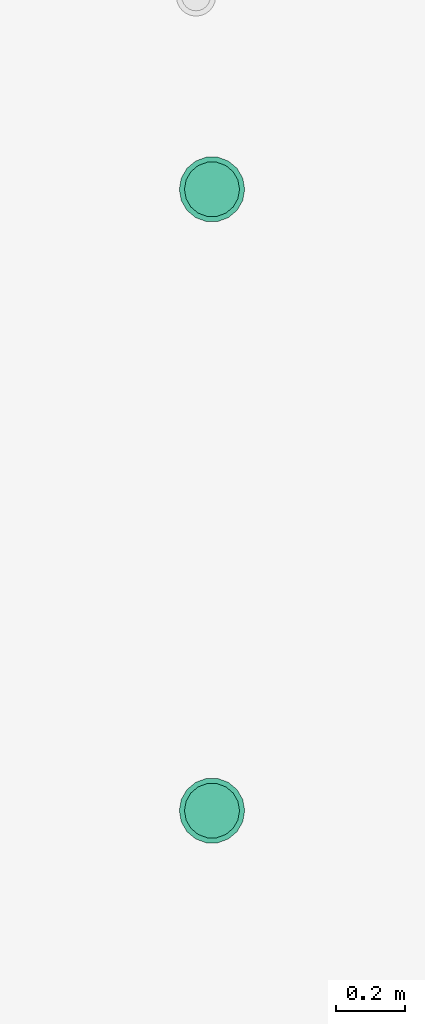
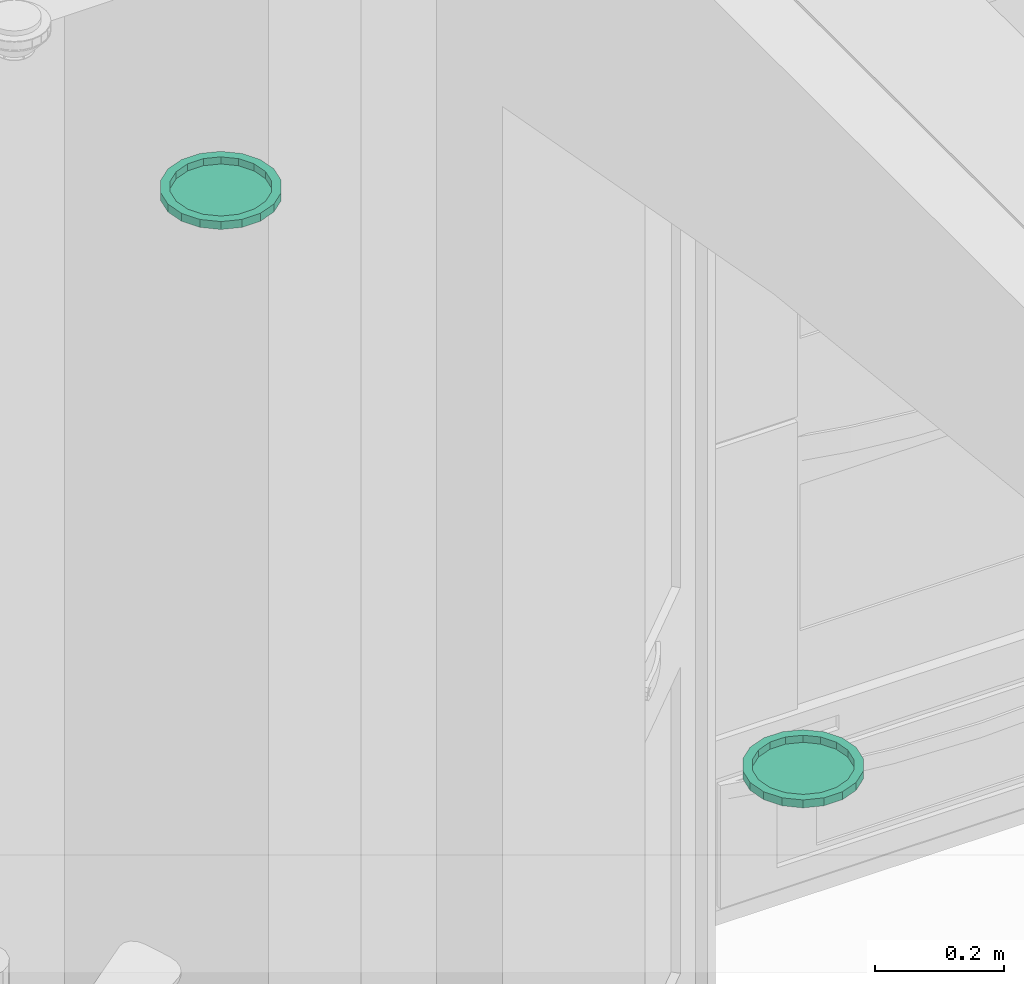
# One storey, part 45 of 77: 2 flow terminals.
"""IFC2X3 building model written with IfcOpenShell, lengths in inches."""

from ifc_helpers import new_model, entity, si_unit, converted_unit, derived_unit, money_unit, direction, frame, origin_with_axes, place, context, subcontext, project, spatial, open_shell, faceted_brep, surface_model, source, transform, mapped, type_object, element, save


model = new_model("IFC2X3")

# Units and contexts
model_context = context("Model", 3, precision=0.000393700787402, world=origin_with_axes(), true_north=direction((0.0, 1.0)))
body_context = subcontext(model_context, "Body", "Model", "MODEL_VIEW")
ifc_project = project(units=[converted_unit("LENGTHUNIT", "INCH", entity("IfcPositiveLengthMeasure", 0.0254), si_unit("LENGTHUNIT", "METRE"), dimensions=[1, 0, 0, 0, 0, 0, 0]), converted_unit("AREAUNIT", "SQUARE_FOOT", entity("IfcPositiveLengthMeasure", 0.09290304), si_unit("AREAUNIT", "SQUARE_METRE"), dimensions=[2, 0, 0, 0, 0, 0, 0]), si_unit("PLANEANGLEUNIT", "RADIAN"), si_unit("SOLIDANGLEUNIT", "STERADIAN"), money_unit("USD"), converted_unit("TIMEUNIT", "Year", entity("IfcTimeMeasure", 31556926.0), si_unit("TIMEUNIT", "SECOND"), dimensions=[0, 0, 1, 0, 0, 0, 0]), si_unit("MASSUNIT", "GRAM", prefix="KILO"), si_unit("THERMODYNAMICTEMPERATUREUNIT", "DEGREE_CELSIUS"), si_unit("LUMINOUSINTENSITYUNIT", "LUMEN"), si_unit("ENERGYUNIT", "JOULE", prefix="MEGA"), derived_unit("THERMALCONDUCTANCEUNIT", [(si_unit("POWERUNIT", "WATT"), 1), (si_unit("LENGTHUNIT", "METRE"), -1), (si_unit("THERMODYNAMICTEMPERATUREUNIT", "KELVIN"), -1)]), derived_unit("SPECIFICHEATCAPACITYUNIT", [(si_unit("ENERGYUNIT", "JOULE"), 1), (si_unit("MASSUNIT", "GRAM", prefix="KILO"), -1), (si_unit("THERMODYNAMICTEMPERATUREUNIT", "KELVIN"), -1)]), derived_unit("MASSDENSITYUNIT", [(si_unit("MASSUNIT", "GRAM", prefix="KILO"), 1), (si_unit("VOLUMEUNIT", "CUBIC_METRE"), -1)])], contexts=[model_context])

# Site, building, storey
site_placement = place(None, origin_with_axes())
site = spatial("IfcSite", under=ifc_project, at=site_placement, Name="Site", CompositionType="ELEMENT")
building_placement = place(site_placement, origin_with_axes())
building = spatial("IfcBuilding", under=site, at=building_placement, Name="Building", CompositionType="ELEMENT")
storey_placement = place(building_placement, frame((0.0, 0.0, 127.952755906), z_axis=(0.0, 0.0, 1.0), x_axis=(1.0, 0.0, 0.0)))
storey = spatial("IfcBuildingStorey", under=building, at=storey_placement, Name="Second Floor", CompositionType="ELEMENT", Elevation=127.953)

# Flow terminals
light_fixture_type = type_object("IfcLightFixtureType", Name="Recessed Spot 25", PredefinedType="NOTDEFINED")
shared_shape = source(origin_with_axes(), body_context, "Body", "SurfaceModel", [
    faceted_brep([(3.74015748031, 0.0, -0.590551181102), (3.51459838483, 1.27920919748, -0.590551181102), (3.51459838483, 1.27920919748, 0.0), (3.74015748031, 0.0, 0.0), (3.51459838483, -1.27920919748, -0.590551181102), (2.86512685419, -2.40412688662, -0.590551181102), (1.87007874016, -3.23907139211, -0.590551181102), (0.649471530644, -3.6833360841, -0.590551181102), (-0.649471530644, -3.6833360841, -0.590551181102), (-1.87007874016, -3.23907139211, -0.590551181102), (-2.86512685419, -2.40412688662, -0.590551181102), (-3.51459838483, -1.27920919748, -0.590551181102), (-3.74015748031, 0.0, -0.590551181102), (-3.51459838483, 1.27920919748, -0.590551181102), (-2.86512685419, 2.40412688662, -0.590551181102), (-1.87007874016, 3.23907139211, -0.590551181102), (-0.649471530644, 3.6833360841, -0.590551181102), (0.649471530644, 3.6833360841, -0.590551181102), (1.87007874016, 3.23907139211, -0.590551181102), (2.86512685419, 2.40412688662, -0.590551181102), (3.14960629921, 0.0, -0.590551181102), (2.95966179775, 1.07722879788, -0.590551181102), (2.41273840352, 2.02452790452, -0.590551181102), (1.57480314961, 2.72763906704, -0.590551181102), (0.546923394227, 3.1017567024, -0.590551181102), (-0.546923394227, 3.1017567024, -0.590551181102), (-1.57480314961, 2.72763906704, -0.590551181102), (-2.41273840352, 2.02452790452, -0.590551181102), (-2.95966179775, 1.07722879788, -0.590551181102), (-3.14960629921, 0.0, -0.590551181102), (-2.95966179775, -1.07722879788, -0.590551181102), (-2.41273840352, -2.02452790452, -0.590551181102), (-1.57480314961, -2.72763906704, -0.590551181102), (-0.546923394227, -3.1017567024, -0.590551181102), (0.546923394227, -3.1017567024, -0.590551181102), (1.57480314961, -2.72763906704, -0.590551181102), (2.41273840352, -2.02452790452, -0.590551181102), (2.95966179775, -1.07722879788, -0.590551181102), (2.86512685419, 2.40412688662, 0.0), (1.87007874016, 3.23907139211, 0.0), (0.649471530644, 3.6833360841, 0.0), (-0.649471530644, 3.6833360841, 0.0), (-1.87007874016, 3.23907139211, 0.0), (-2.86512685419, 2.40412688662, 0.0), (-3.51459838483, 1.27920919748, 0.0), (-3.74015748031, 0.0, 0.0), (-3.51459838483, -1.27920919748, 0.0), (-2.86512685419, -2.40412688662, 0.0), (-1.87007874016, -3.23907139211, 0.0), (-0.649471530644, -3.6833360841, 0.0), (0.649471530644, -3.6833360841, 0.0), (1.87007874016, -3.23907139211, 0.0), (2.86512685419, -2.40412688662, 0.0), (3.51459838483, -1.27920919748, 0.0), (3.14960629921, 0.0, 0.0), (2.95966179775, -1.07722879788, 0.0), (2.41273840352, -2.02452790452, 0.0), (1.57480314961, -2.72763906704, 0.0), (0.546923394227, -3.1017567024, 0.0), (-0.546923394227, -3.1017567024, 0.0), (-1.57480314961, -2.72763906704, 0.0), (-2.41273840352, -2.02452790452, 0.0), (-2.95966179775, -1.07722879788, 0.0), (-3.14960629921, 0.0, 0.0), (-2.95966179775, 1.07722879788, 0.0), (-2.41273840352, 2.02452790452, 0.0), (-1.57480314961, 2.72763906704, 0.0), (-0.546923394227, 3.1017567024, 0.0), (0.546923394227, 3.1017567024, 0.0), (1.57480314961, 2.72763906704, 0.0), (2.41273840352, 2.02452790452, 0.0), (2.95966179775, 1.07722879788, 0.0)], [[[0, 1, 2, 3]], [[0, 4, 5, 6, 7, 8, 9, 10, 11, 12, 13, 14, 15, 16, 17, 18, 19, 1], [20, 21, 22, 23, 24, 25, 26, 27, 28, 29, 30, 31, 32, 33, 34, 35, 36, 37]], [[1, 19, 38, 2]], [[3, 2, 38, 39, 40, 41, 42, 43, 44, 45, 46, 47, 48, 49, 50, 51, 52, 53], [54, 55, 56, 57, 58, 59, 60, 61, 62, 63, 64, 65, 66, 67, 68, 69, 70, 71]], [[4, 0, 3, 53]], [[5, 4, 53, 52]], [[6, 5, 52, 51]], [[7, 6, 51, 50]], [[8, 7, 50, 49]], [[9, 8, 49, 48]], [[10, 9, 48, 47]], [[11, 10, 47, 46]], [[12, 11, 46, 45]], [[13, 12, 45, 44]], [[14, 13, 44, 43]], [[15, 14, 43, 42]], [[16, 15, 42, 41]], [[17, 16, 41, 40]], [[18, 17, 40, 39]], [[19, 18, 39, 38]], [[21, 20, 54, 71]], [[22, 21, 71, 70]], [[23, 22, 70, 69]], [[24, 23, 69, 68]], [[25, 24, 68, 67]], [[26, 25, 67, 66]], [[27, 26, 66, 65]], [[28, 27, 65, 64]], [[29, 28, 64, 63]], [[30, 29, 63, 62]], [[31, 30, 62, 61]], [[32, 31, 61, 60]], [[33, 32, 60, 59]], [[34, 33, 59, 58]], [[35, 34, 58, 57]], [[36, 35, 57, 56]], [[37, 36, 56, 55]], [[20, 37, 55, 54]]]),
    surface_model("IfcShellBasedSurfaceModel", [(3.14960629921, 0.0, -0.527559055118), (2.95966179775, -1.07722879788, -0.527559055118), (2.41273840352, -2.02452790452, -0.527559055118), (1.57480314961, -2.72763906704, -0.527559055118), (0.546923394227, -3.1017567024, -0.527559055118), (-0.546923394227, -3.1017567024, -0.527559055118), (-1.57480314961, -2.72763906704, -0.527559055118), (-2.41273840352, -2.02452790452, -0.527559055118), (-2.95966179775, -1.07722879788, -0.527559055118), (-3.14960629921, 0.0, -0.527559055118), (-2.95966179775, 1.07722879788, -0.527559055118), (-2.41273840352, 2.02452790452, -0.527559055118), (-1.57480314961, 2.72763906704, -0.527559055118), (-0.546923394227, 3.1017567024, -0.527559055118), (0.546923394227, 3.1017567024, -0.527559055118), (1.57480314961, 2.72763906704, -0.527559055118), (2.41273840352, 2.02452790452, -0.527559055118), (2.95966179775, 1.07722879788, -0.527559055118)], [open_shell([[[0, 1, 2, 3, 4, 5, 6, 7, 8, 9, 10, 11, 12, 13, 14, 15, 16, 17]]])]),
])
for number, where, z_axis, x_axis, name in (
    (1, (442.814277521, 325.344179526, 118.503937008), (0.0, 0.0, 1.0), (1.0, 0.0, 0.0), "L-03"),
    (2, (442.814277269, 254.266825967, 118.503937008), (0.0, 0.0, 1.0), (1.0, 0.0, 0.0), "L-03"),
):
    element("IfcFlowTerminal", number, at=place(storey_placement, frame(where, z_axis=z_axis, x_axis=x_axis)), inside=storey, type_object=light_fixture_type, Name=name, context=body_context, shape_type="MappedRepresentation", body=[
        mapped(shared_shape, transform((0.0, 0.0, 0.0))),
    ])

save(model, "model.ifc")
